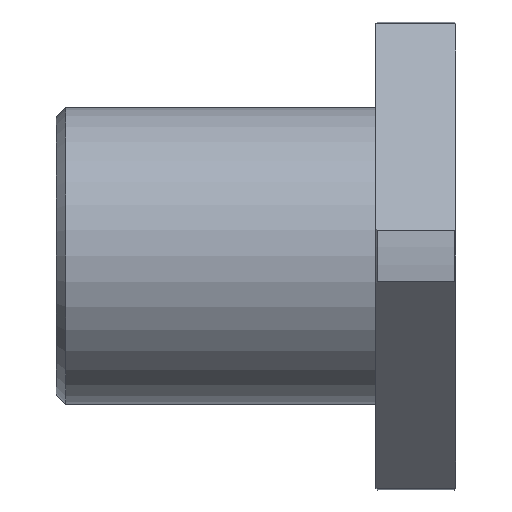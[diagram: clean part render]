
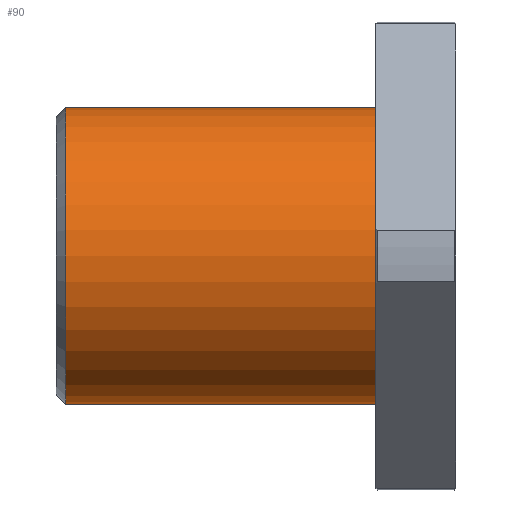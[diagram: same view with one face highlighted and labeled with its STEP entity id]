
A CAD part, front view. The second image highlights one B-rep face of the part: STEP entity #90.
In plain terms, the highlighted cylindrical face has radius 26 mm (diameter 52 mm), a full revolution.
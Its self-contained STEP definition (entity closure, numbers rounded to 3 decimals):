
#90=ADVANCED_FACE('',(#159,#160),#161,.T.);
#159=FACE_OUTER_BOUND('',#253,.T.);
#160=FACE_OUTER_BOUND('',#254,.T.);
#161=CYLINDRICAL_SURFACE('',#255,26.0);
#253=EDGE_LOOP('',(#407));
#254=EDGE_LOOP('',(#408));
#255=AXIS2_PLACEMENT_3D('',#409,#410,#411);
#407=ORIENTED_EDGE('',*,*,#586,.F.);
#408=ORIENTED_EDGE('',*,*,#542,.T.);
#409=CARTESIAN_POINT('',(-70.0,0.0,0.0));
#410=DIRECTION('',(1.0,-0.0,-0.0));
#411=DIRECTION('',(0.0,0.0,1.0));
#542=EDGE_CURVE('',#615,#615,#616,.T.);
#586=EDGE_CURVE('',#698,#698,#699,.T.);
#615=VERTEX_POINT('',#737);
#616=CIRCLE('',#738,26.0);
#698=VERTEX_POINT('',#857);
#699=CIRCLE('',#858,26.0);
#737=CARTESIAN_POINT('',(-14.0,0.0,26.0));
#738=AXIS2_PLACEMENT_3D('',#927,#928,#929);
#857=CARTESIAN_POINT('',(-68.35,0.0,26.0));
#858=AXIS2_PLACEMENT_3D('',#1012,#1013,#1014);
#927=CARTESIAN_POINT('',(-14.0,0.0,0.0));
#928=DIRECTION('',(-1.0,0.0,0.0));
#929=DIRECTION('',(0.0,0.0,1.0));
#1012=CARTESIAN_POINT('',(-68.35,0.0,0.0));
#1013=DIRECTION('',(-1.0,0.0,0.0));
#1014=DIRECTION('',(0.0,0.0,1.0));
